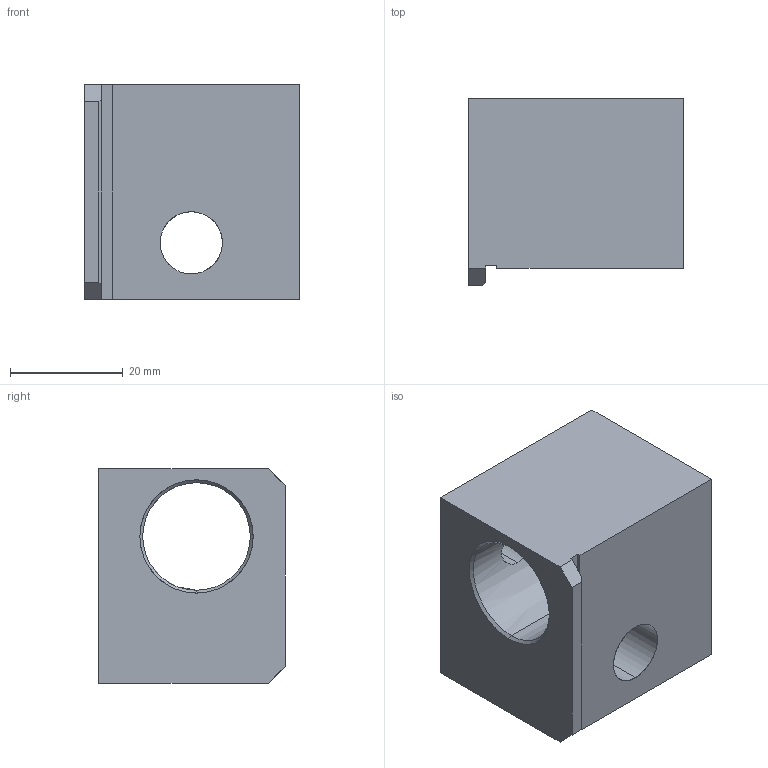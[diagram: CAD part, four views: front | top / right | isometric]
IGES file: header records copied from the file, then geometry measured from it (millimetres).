
Start section: SolidWorks IGES file using analytic representation for surfaces
Global section: file name: R:\Drawings\Files saved as other types\Solid_Models\MODELS FOR PUBLIC\2 inch SINGLE POSITION HOLDER.IGS; native system: SolidWorks 2012; preprocessor: SolidWorks 2012; author: RTooley; date: 131220.094032; units: millimetre
Bounding box: 38 x 33 x 38 mm (x, y, z)
Surface area: 10612.5 mm2 (no closed solid volume)
Topology: 0 solids, 0 shells, 32 faces, 526 edges, 526 vertices
Faces by surface type: revolution 18, bspline 14
